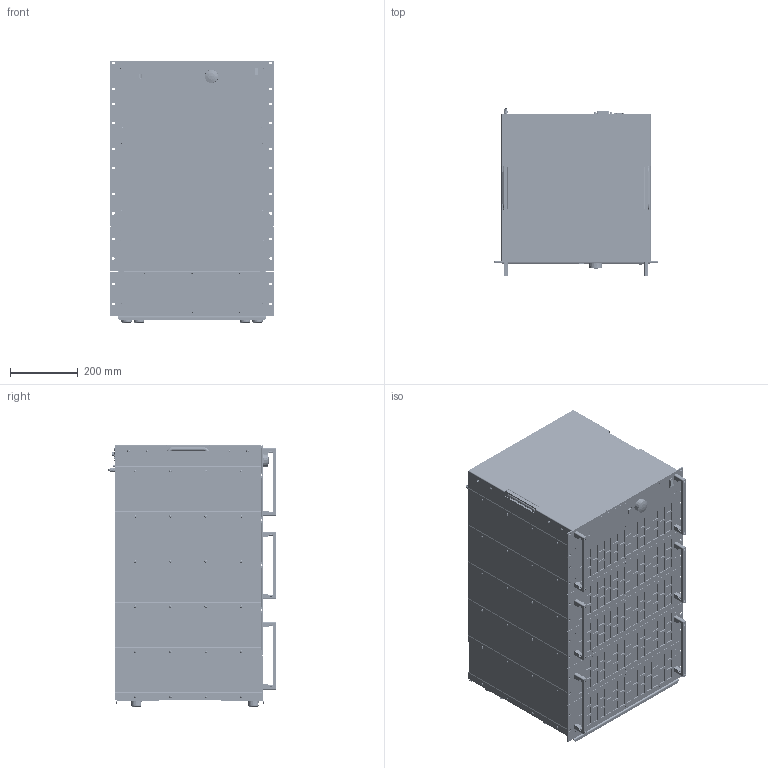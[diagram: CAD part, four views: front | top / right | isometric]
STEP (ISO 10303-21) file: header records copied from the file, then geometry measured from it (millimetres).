
FILE_DESCRIPTION(('STEP AP214'),'1');
FILE_NAME('ACL_M22_19Z_17HE_PH3_15_ST125_BRA_3D_01.step','2022-11-23T08:12:20',(' '),(' '),'Spatial InterOp 3D',' ',' ');
FILE_SCHEMA(('AUTOMOTIVE_DESIGN { 1 0 10303 214 1 1 1 1 }'));
Length unit declared in the file: millimetre
Products named in the file (25): ACLS_3HE_Leistungsteil_Bodenwanne_2_Füße_3D_01; *U290; *U291; *U292; AutoCreatedBlock_39C; ACL_M22_19Z_17HE_PH3_15_ST125_BRA_3D_01; ACLS_3HE_Leistungsteil_3D_01; *U296; *U297; *U298; AutoCreatedBlock_39E; ACLSRV_Steuerteil_PH3_15-ST125_BRA_3D_01; *U442; *U443; *U445; *U447; *U449; *U451; *U453; *U454; 2078_ACL_IO Panel_02; *U456; AutoCreatedBlock_3A0; Griff 5HE; AutoCreatedBlock_39A
Assembly tree (106 placements, depth 3):
  ACL_M22_19Z_17HE_PH3_15_ST125_BRA_3D_01
    ACLS_3HE_Leistungsteil_Bodenwanne_2_Füße_3D_01
      *U290  x8
      *U291  x6
      *U292  x8
      AutoCreatedBlock_39C
    ACLS_3HE_Leistungsteil_3D_01  x4
      *U296
      *U297
      *U298
      AutoCreatedBlock_39E
    ACLSRV_Steuerteil_PH3_15-ST125_BRA_3D_01
      *U442  x2
      *U443
      *U445  x3
      *U447  x2
      *U449  x2
      *U451  x13
      *U453  x16
      *U454  x2
      2078_ACL_IO Panel_02
      *U456  x4
      AutoCreatedBlock_3A0
    Griff 5HE  x6
    AutoCreatedBlock_39A
Bounding box: 482.61 x 497.4 x 772.53 mm (x, y, z)
Volume: 139735475.7 mm3; surface area: 7080229.7 mm2
Topology: 361 solids, 567 shells, 27900 faces, 70530 edges, 44330 vertices
Faces by surface type: plane 13446, cone 9205, cylinder 4536, sphere 306, torus 205, bspline 202
Entity records: 611502 total; most frequent: CARTESIAN_POINT 114392, DIRECTION 77635, ORIENTED_EDGE 75202, EDGE_CURVE 37759, LINE 26859, VECTOR 26859, AXIS2_PLACEMENT_3D 25388, VERTEX_POINT 23821
